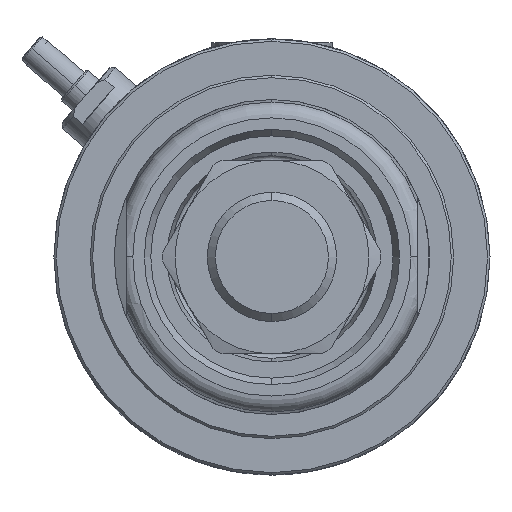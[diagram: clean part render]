
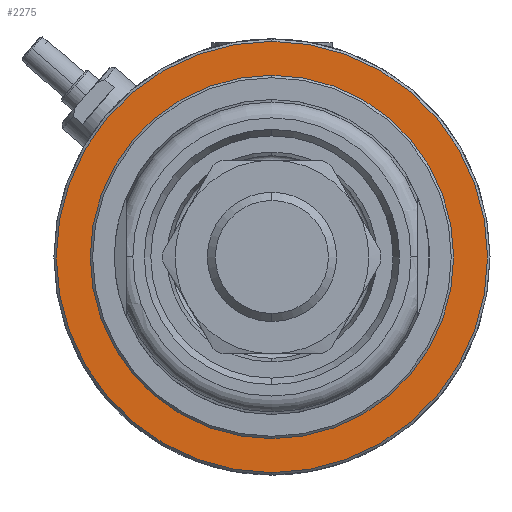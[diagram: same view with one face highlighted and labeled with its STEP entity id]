
A CAD part, front view. The second image highlights one B-rep face of the part: STEP entity #2275.
In plain terms, the highlighted planar face has unit normal (0, -1, 0) as drawn and (-1, 0, 0) by its records, which use the part's own axes.
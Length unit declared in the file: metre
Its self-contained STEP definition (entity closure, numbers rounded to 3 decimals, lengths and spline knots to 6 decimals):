
#2275=ADVANCED_FACE('',(#3154,#3155),#3156,.F.);
#3154=FACE_OUTER_BOUND('',#4707,.T.);
#3155=FACE_BOUND('',#4708,.T.);
#3156=PLANE('',#4709);
#4707=EDGE_LOOP('',(#7289,#7290));
#4708=EDGE_LOOP('',(#7291,#7292));
#4709=AXIS2_PLACEMENT_3D('',#7293,#7294,#7295);
#7289=ORIENTED_EDGE('',*,*,#10503,.T.);
#7290=ORIENTED_EDGE('',*,*,#10442,.T.);
#7291=ORIENTED_EDGE('',*,*,#10470,.F.);
#7292=ORIENTED_EDGE('',*,*,#10504,.F.);
#7293=CARTESIAN_POINT('',(-0.023,0.0,0.027));
#7294=DIRECTION('',(1.0,0.0,0.0));
#7295=DIRECTION('',(0.0,1.0,-0.0));
#10442=EDGE_CURVE('',#12075,#12072,#12076,.F.);
#10470=EDGE_CURVE('',#12123,#12125,#12126,.T.);
#10503=EDGE_CURVE('',#12072,#12075,#12172,.F.);
#10504=EDGE_CURVE('',#12125,#12123,#12173,.T.);
#12072=VERTEX_POINT('',#14737);
#12075=VERTEX_POINT('',#14741);
#12076=CIRCLE('',#14742,0.0267);
#12123=VERTEX_POINT('',#14822);
#12125=VERTEX_POINT('',#14825);
#12126=CIRCLE('',#14826,0.0225);
#12172=CIRCLE('',#14949,0.0267);
#12173=CIRCLE('',#14950,0.0225);
#14737=CARTESIAN_POINT('',(-0.023,0.0,-0.0267));
#14741=CARTESIAN_POINT('',(-0.023,0.,0.0267));
#14742=AXIS2_PLACEMENT_3D('',#17824,#17825,#17826);
#14822=CARTESIAN_POINT('',(-0.023,0.0,0.0225));
#14825=CARTESIAN_POINT('',(-0.023,0.,-0.0225));
#14826=AXIS2_PLACEMENT_3D('',#17876,#17877,#17878);
#14949=AXIS2_PLACEMENT_3D('',#17933,#17934,#17935);
#14950=AXIS2_PLACEMENT_3D('',#17936,#17937,#17938);
#17824=CARTESIAN_POINT('',(-0.023,0.0,0.0));
#17825=DIRECTION('',(1.0,0.0,0.0));
#17826=DIRECTION('',(0.0,0.0,-1.0));
#17876=CARTESIAN_POINT('',(-0.023,0.0,0.0));
#17877=DIRECTION('',(-1.0,0.0,0.0));
#17878=DIRECTION('',(0.0,0.0,1.0));
#17933=CARTESIAN_POINT('',(-0.023,0.0,0.0));
#17934=DIRECTION('',(1.0,0.0,0.0));
#17935=DIRECTION('',(0.0,0.0,-1.0));
#17936=CARTESIAN_POINT('',(-0.023,0.0,0.0));
#17937=DIRECTION('',(-1.0,0.0,0.0));
#17938=DIRECTION('',(0.0,0.0,1.0));
